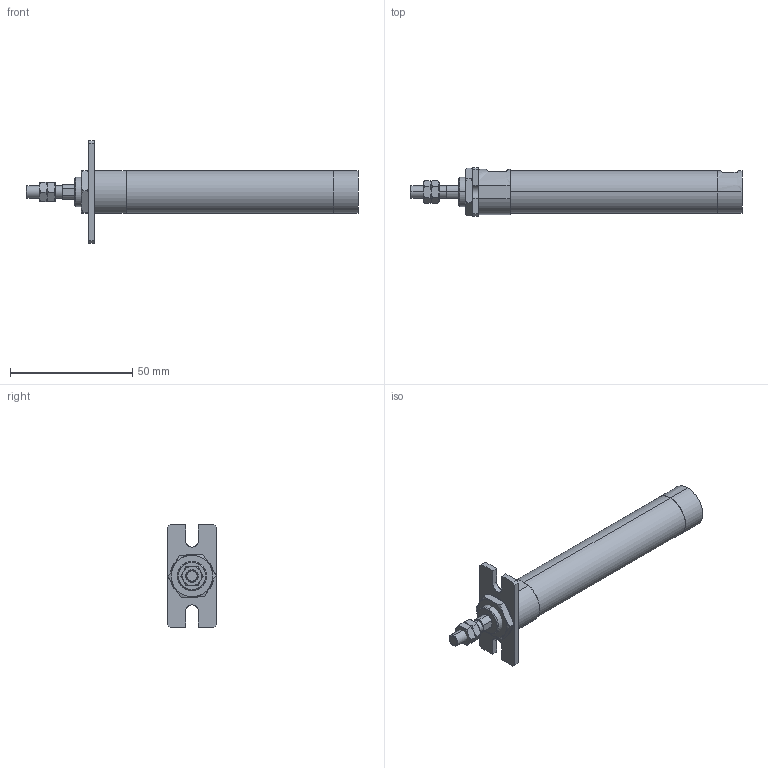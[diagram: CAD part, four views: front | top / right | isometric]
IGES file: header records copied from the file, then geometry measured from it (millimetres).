
Start section: SolidWorks IGES file using analytic representation for surfaces
Global section: file name: C:\Users\Toshiba\Desktop\ZGU2-16-60-A.IGS; native system: SolidWorks 2014; preprocessor: SolidWorks 2014; author: Toshiba; date: 160331.090110; units: millimetre
Bounding box: 136 x 20 x 42 mm (x, y, z)
Surface area: 9804.5 mm2 (no closed solid volume)
Topology: 0 solids, 0 shells, 129 faces, 1916 edges, 1912 vertices
Faces by surface type: bspline 93, revolution 36
